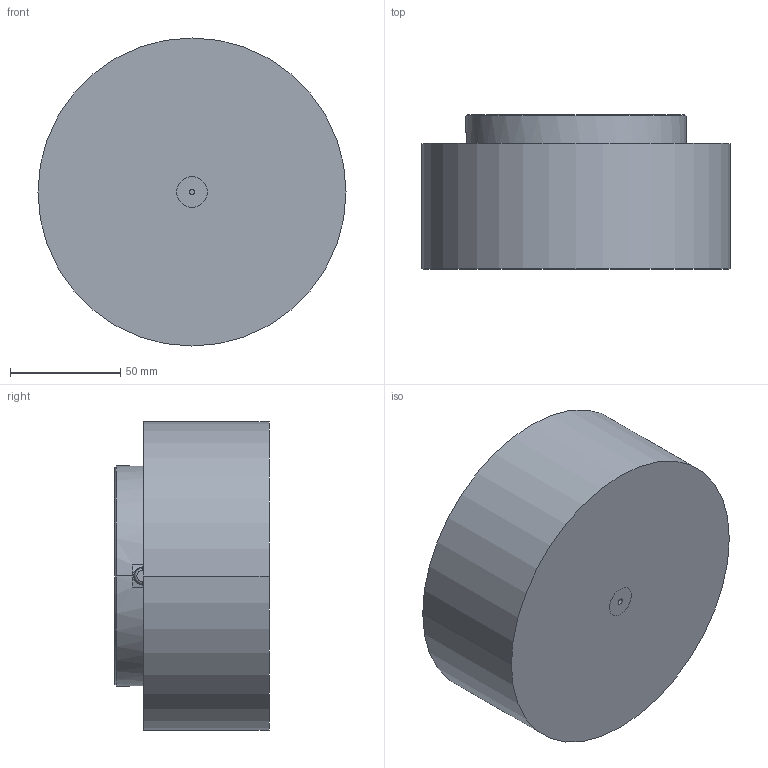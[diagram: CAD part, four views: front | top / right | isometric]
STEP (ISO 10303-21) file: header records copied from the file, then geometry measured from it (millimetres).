
FILE_DESCRIPTION((''),'2;1');
FILE_NAME('S34C101.stp','2020-09-17T15:17:53',(''),(''),'AutoCAD STEP 2000i','AutoCAD 2000i',', , ');
FILE_SCHEMA(('CONFIG_CONTROL_DESIGN'));
Length unit declared in the file: millimetre
Products named in the file (4): DRAWING1; NOZZLE S 101C 34; RING 34-2018; MOLD NODY C 34
Assembly tree (3 placements, depth 2):
  DRAWING1
    NOZZLE S 101C 34
    RING 34-2018
    MOLD NODY C 34
Bounding box: 140 x 70 x 140 mm (x, y, z)
Volume: 962730.6 mm3; surface area: 92230.6 mm2
Topology: 3 solids, 3 shells, 147 faces, 349 edges, 221 vertices
Faces by surface type: cylinder 58, cone 40, plane 27, bspline 14, torus 8
Entity records: 4977 total; most frequent: CARTESIAN_POINT 1290, DIRECTION 841, ORIENTED_EDGE 694, AXIS2_PLACEMENT_3D 365, EDGE_CURVE 347, CIRCLE 228, VERTEX_POINT 221, EDGE_LOOP 174
